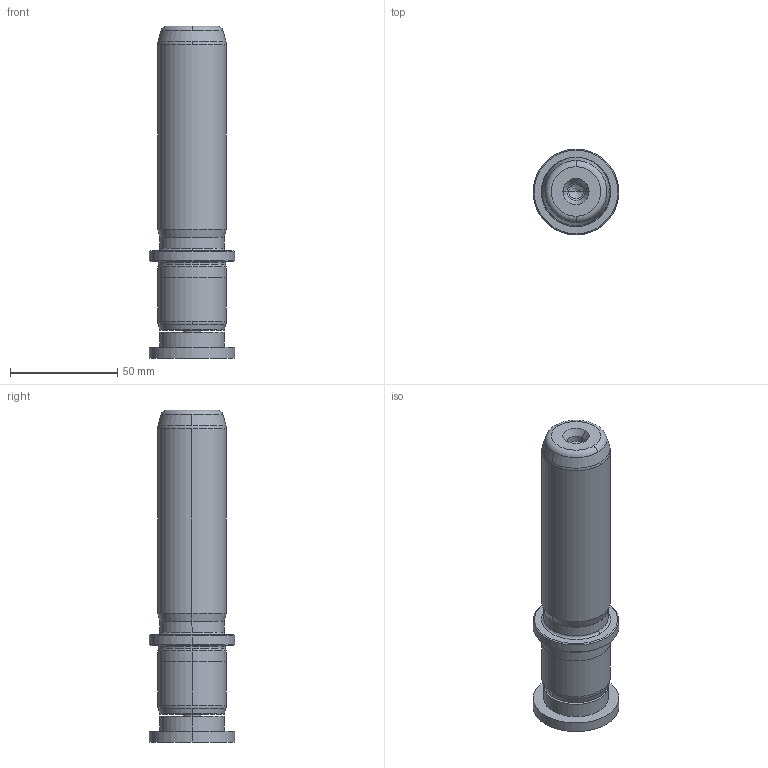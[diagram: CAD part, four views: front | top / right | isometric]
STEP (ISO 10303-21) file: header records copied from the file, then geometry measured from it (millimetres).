
FILE_DESCRIPTION((''),'2;1');
FILE_NAME('P22_032_110.stp','2009-02-03T14:00:32',(''),(''),'Mechanical Desktop 2009','Mechanical Desktop 2009',', , ');
FILE_SCHEMA(('CONFIG_CONTROL_DESIGN'));
Length unit declared in the file: millimetre
Products named in the file (2): Product; blmdl1
Assembly tree (1 placements, depth 2):
  Product
    blmdl1
Bounding box: 40 x 40 x 155 mm (x, y, z)
Volume: 123787.5 mm3; surface area: 22864 mm2
Topology: 3 solids, 3 shells, 99 faces, 237 edges, 149 vertices
Faces by surface type: cylinder 32, cone 28, plane 19, torus 10, bspline 10
Entity records: 3419 total; most frequent: CARTESIAN_POINT 923, DIRECTION 570, ORIENTED_EDGE 466, AXIS2_PLACEMENT_3D 246, EDGE_CURVE 233, CIRCLE 155, VERTEX_POINT 149, EDGE_LOOP 110
